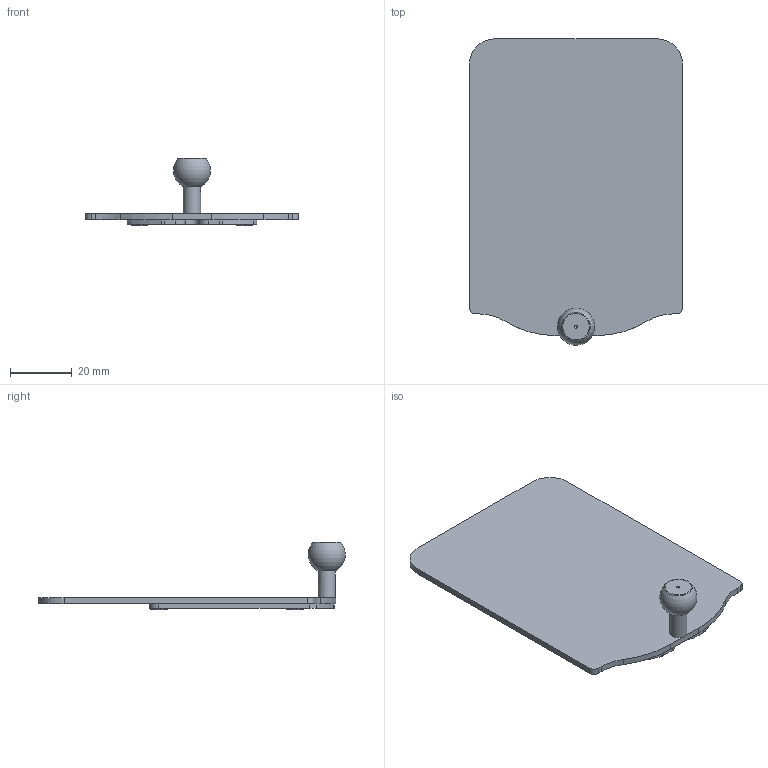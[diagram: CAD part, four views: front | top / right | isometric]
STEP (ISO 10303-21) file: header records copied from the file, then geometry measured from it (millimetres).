
FILE_DESCRIPTION(/* description */ (''),/* implementation_level */ '2;1');
FILE_NAME(/* name */ 'LA-5378-3172-B.stp',/* time_stamp */ '2022-02-03T08:44:04+00:00',/* author */ (''),/* organization */ (''),/* preprocessor_version */ 'ST-DEVELOPER v16.7',/* originating_system */ 'SIEMENS PLM Software NX 1946',/* authorisation */ '');
FILE_SCHEMA (('AUTOMOTIVE_DESIGN { 1 0 10303 214 3 1 1 1 }'));
Length unit declared in the file: millimetre
Products named in the file (1): LA-5378-3172-B_VMCP LID
Bounding box: 68.9 x 99.12 x 21.9 mm (x, y, z)
Volume: 17244.2 mm3; surface area: 14238.7 mm2
Topology: 1 solids, 1 shells, 54 faces, 130 edges, 88 vertices
Faces by surface type: cylinder 24, plane 23, cone 6, sphere 1
Full cylindrical faces by diameter (mm): 5.4 x4, 5.6 x1
Entity records: 1707 total; most frequent: DIRECTION 280, CARTESIAN_POINT 248, ORIENTED_EDGE 222, AXIS2_PLACEMENT_3D 114, EDGE_CURVE 111, VERTEX_POINT 82, EDGE_LOOP 76, CIRCLE 59
